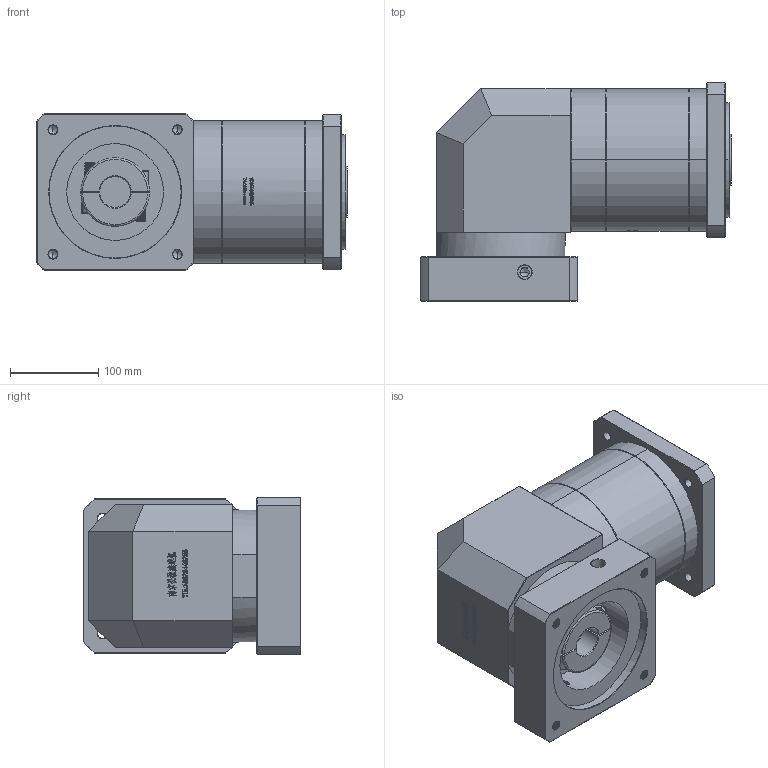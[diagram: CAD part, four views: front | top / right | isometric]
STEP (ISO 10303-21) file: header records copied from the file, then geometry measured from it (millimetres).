
FILE_DESCRIPTION (( 'STEP AP214' ), '1' );
FILE_NAME ('ZFR160A-K35-L3-35-150-200-M12.step', '2023-03-22T11:50:12', ( '' ), ( '' ), 'SwSTEP 2.0', 'SolidWorks 2016', '' );
FILE_SCHEMA (( 'AUTOMOTIVE_DESIGN' ));
Length unit declared in the file: millimetre
Products named in the file (1): ZFR160A-K35-L3-35-150-200-M12
Bounding box: 352.7 x 247.5 x 178 mm (x, y, z)
Volume: 8514725.9 mm3; surface area: 503252.9 mm2
Topology: 6 solids, 6 shells, 2446 faces, 6440 edges, 4147 vertices
Faces by surface type: plane 1266, bspline 490, cylinder 366, cone 304, torus 20
Entity records: 135466 total; most frequent: CARTESIAN_POINT 52223, ORIENTED_EDGE 12824, DIRECTION 9792, EDGE_CURVE 6412, VERTEX_POINT 4147, VECTOR 4090, LINE 4090, AXIS2_PLACEMENT_3D 2851
